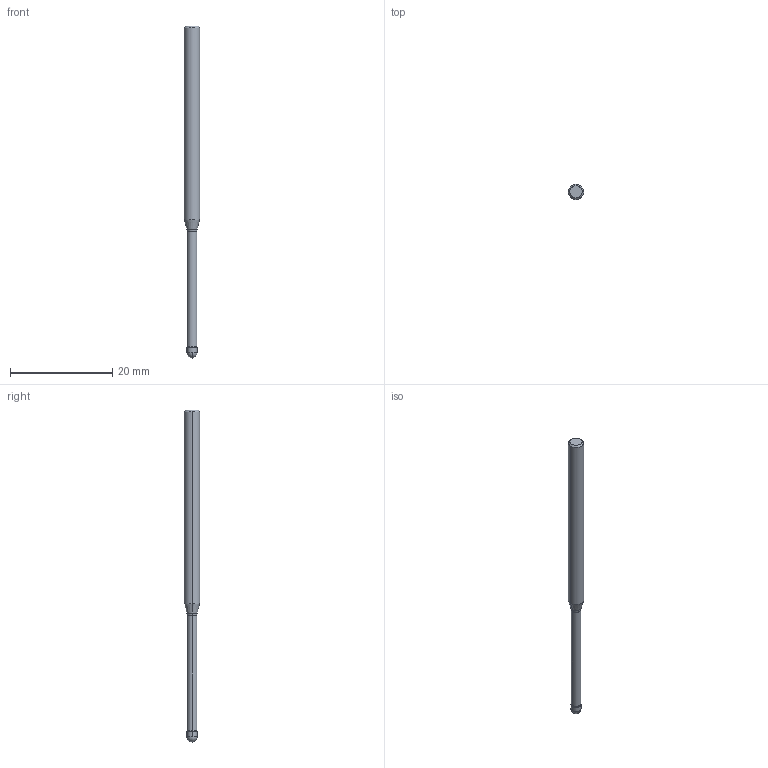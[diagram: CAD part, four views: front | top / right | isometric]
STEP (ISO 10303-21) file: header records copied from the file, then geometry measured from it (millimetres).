
FILE_DESCRIPTION (( 'STEP AP214' ), '1' );
FILE_NAME ('561.203.75_3D-model.step', '2022-02-18T16:57:09', ( '' ), ( '' ), 'SwSTEP 2.0', 'SolidWorks 2020', '' );
FILE_SCHEMA (( 'AUTOMOTIVE_DESIGN' ));
Length unit declared in the file: millimetre
Products named in the file (3): CUT-3D^Baugr13; 561.203.75_3D-model; NOCUT-3D^Baugr13
Assembly tree (2 placements, depth 2):
  561.203.75_3D-model
    CUT-3D^Baugr13
    NOCUT-3D^Baugr13
Bounding box: 3 x 3 x 65 mm (x, y, z)
Volume: 348.2 mm3; surface area: 535.5 mm2
Topology: 2 solids, 2 shells, 19 faces, 38 edges, 21 vertices
Faces by surface type: cylinder 6, cone 6, plane 3, sphere 2, torus 2
Entity records: 604 total; most frequent: DIRECTION 114, CARTESIAN_POINT 84, ORIENTED_EDGE 72, AXIS2_PLACEMENT_3D 51, EDGE_CURVE 36, CIRCLE 24, VERTEX_POINT 21, ADVANCED_FACE 19
